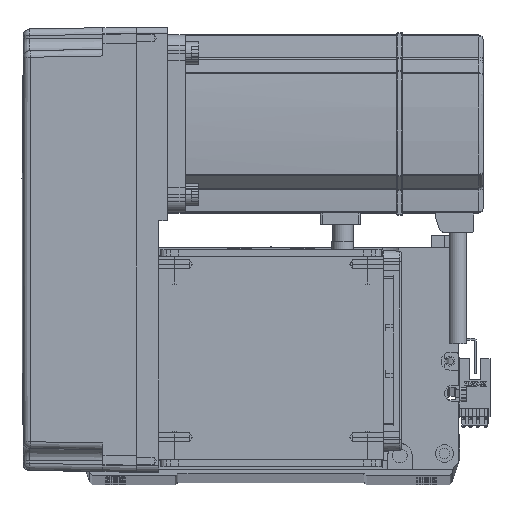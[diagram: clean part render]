
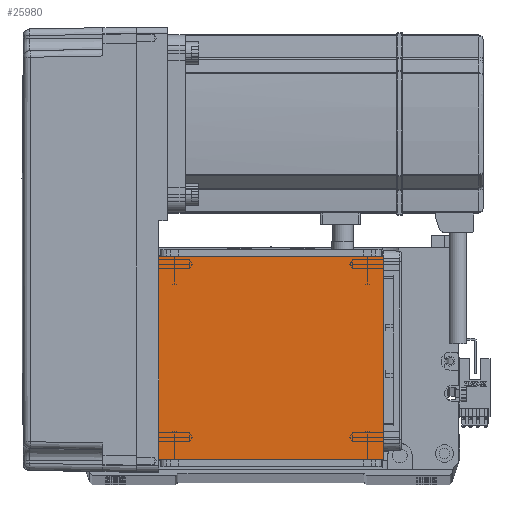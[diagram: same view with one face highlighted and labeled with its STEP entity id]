
A CAD part, top view. The second image highlights one B-rep face of the part: STEP entity #25980.
In plain terms, the highlighted planar face has unit normal (0, 0, 1).
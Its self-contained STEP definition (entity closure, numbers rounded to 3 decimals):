
#1200 = CARTESIAN_POINT ( 'NONE',  ( -70.004, 20., 115. ) ) ;
#1735 = CARTESIAN_POINT ( 'NONE',  ( 50.5, 111.5, 115. ) ) ;
#3161 = DIRECTION ( 'NONE',  ( 0., -1., 0. ) ) ;
#3416 = AXIS2_PLACEMENT_3D ( 'NONE', #25279, #10324, #15690 ) ;
#3678 = CARTESIAN_POINT ( 'NONE',  ( -70.004, 111.5, 115. ) ) ;
#3990 = VECTOR ( 'NONE', #3161, 1000. ) ;
#4536 = DIRECTION ( 'NONE',  ( 1., 0., 0. ) ) ;
#5115 = VECTOR ( 'NONE', #35840, 1000. ) ;
#7473 = CARTESIAN_POINT ( 'NONE',  ( -50.5, 122., 115. ) ) ;
#7727 = ORIENTED_EDGE ( 'NONE', *, *, #20690, .F. ) ;
#10324 = DIRECTION ( 'NONE',  ( 0., 0., 1. ) ) ;
#11242 = ORIENTED_EDGE ( 'NONE', *, *, #54874, .T. ) ;
#13325 = VERTEX_POINT ( 'NONE', #47779 ) ;
#15690 = DIRECTION ( 'NONE',  ( 1., 0., 0. ) ) ;
#20690 = EDGE_CURVE ( 'NONE', #13325, #37388, #30317, .T. ) ;
#24116 = FACE_OUTER_BOUND ( 'NONE', #51557, .T. ) ;
#24541 = CARTESIAN_POINT ( 'NONE',  ( 50.5, 122., 115. ) ) ;
#24802 = EDGE_CURVE ( 'NONE', #32300, #49075, #34478, .T. ) ;
#25279 = CARTESIAN_POINT ( 'NONE',  ( 0., 0., 115. ) ) ;
#25980 = ADVANCED_FACE ( 'NONE', ( #24116 ), #39611, .T. ) ;
#30317 = LINE ( 'NONE', #1200, #5115 ) ;
#32300 = VERTEX_POINT ( 'NONE', #59732 ) ;
#34478 = LINE ( 'NONE', #3678, #47508 ) ;
#35840 = DIRECTION ( 'NONE',  ( -1., 0., 0. ) ) ;
#37388 = VERTEX_POINT ( 'NONE', #59363 ) ;
#39493 = DIRECTION ( 'NONE',  ( 0., 1., 0. ) ) ;
#39611 = PLANE ( 'NONE',  #3416 ) ;
#47387 = ORIENTED_EDGE ( 'NONE', *, *, #49946, .T. ) ;
#47508 = VECTOR ( 'NONE', #4536, 1000. ) ;
#47779 = CARTESIAN_POINT ( 'NONE',  ( 50.5, 20., 115. ) ) ;
#49075 = VERTEX_POINT ( 'NONE', #1735 ) ;
#49946 = EDGE_CURVE ( 'NONE', #13325, #49075, #52086, .T. ) ;
#51557 = EDGE_LOOP ( 'NONE', ( #57017, #11242, #7727, #47387 ) ) ;
#52086 = LINE ( 'NONE', #24541, #56756 ) ;
#52262 = LINE ( 'NONE', #7473, #3990 ) ;
#54874 = EDGE_CURVE ( 'NONE', #32300, #37388, #52262, .T. ) ;
#56756 = VECTOR ( 'NONE', #39493, 1000. ) ;
#57017 = ORIENTED_EDGE ( 'NONE', *, *, #24802, .F. ) ;
#59363 = CARTESIAN_POINT ( 'NONE',  ( -50.5, 20., 115. ) ) ;
#59732 = CARTESIAN_POINT ( 'NONE',  ( -50.5, 111.5, 115. ) ) ;
